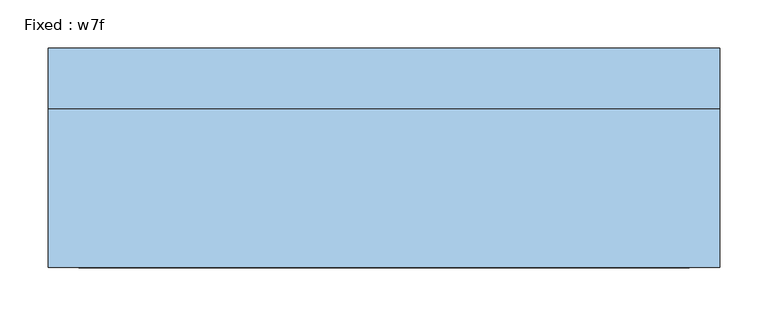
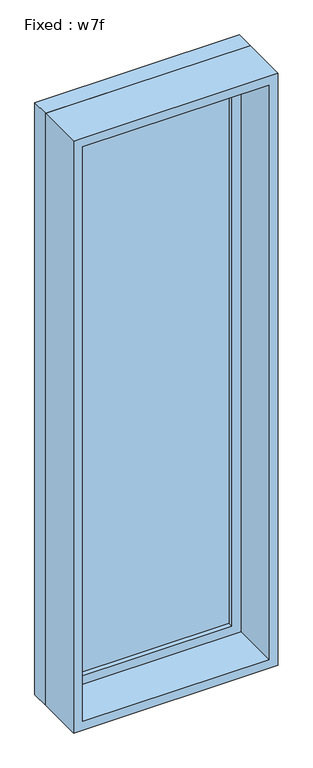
"""IFC4 building model written with IfcOpenShell, lengths in millimetres: window geometry, Fixed : w7f."""

from ifc_helpers import new_model, si_unit, frame, origin, place, context, project, spatial, polyline, outline, extrude, source, transform, mapped, element, save


def fixed_w7f_b2efe030(model_context):
    return source(origin(), model_context, "Body", "SweptSolid", [
        extrude(outline(polyline([(247.65, 66.675), (-323.85, 66.675), (-323.85, 79.375), (247.65, 79.375), (247.65, 66.675)])), frame((0.0, 0.0, 977.9), z_axis=(0.0, 0.0, 1.0), x_axis=(1.0, 0.0, 0.0)), (0.0, 0.0, 1.0), 2006.6),
        extrude(outline(polyline([(3028.95, -368.3), (933.45, -368.3), (933.45, 292.1), (3028.95, 292.1), (3028.95, -368.3)]), holes=[polyline([(2984.5, -323.85), (2984.5, 247.65), (977.9, 247.65), (977.9, -323.85), (2984.5, -323.85)])]), frame((0.0, 50.8, 0.0), z_axis=(0.0, 1.0, 0.0), x_axis=(0.0, 0.0, 1.0)), (0.0, 0.0, 1.0), 44.45),
        extrude(outline(polyline([(3048.0, -387.35), (914.4, -387.35), (914.4, 311.15), (3048.0, 311.15), (3048.0, -387.35)]), holes=[polyline([(3016.25, -355.6), (3016.25, 279.4), (946.15, 279.4), (946.15, -355.6), (3016.25, -355.6)])]), frame((0.0, -114.3, 0.0), z_axis=(0.0, 1.0, 0.0), x_axis=(0.0, 0.0, 1.0)), (0.0, 0.0, 1.0), 165.1),
        extrude(outline(polyline([(3048.0, 311.15), (3048.0, -387.35), (914.4, -387.35), (914.4, 311.15), (3048.0, 311.15)]), holes=[polyline([(3028.95, 292.1), (933.45, 292.1), (933.45, -368.3), (3028.95, -368.3), (3028.95, 292.1)])]), frame((0.0, 50.8, 0.0), z_axis=(0.0, 1.0, 0.0), x_axis=(0.0, 0.0, 1.0)), (0.0, 0.0, 1.0), 63.5),
    ])


if __name__ == "__main__":
    model = new_model("IFC4")
    model_context = context("Model", 3, world=origin())
    ifc_project = project(units=[si_unit("LENGTHUNIT", "METRE", prefix="MILLI")], contexts=[model_context])
    site = spatial("IfcSite", under=ifc_project)
    building = spatial("IfcBuilding", under=site)
    placement = place(None, origin())
    fixed_w7f_shape = fixed_w7f_b2efe030(model_context)
    element("IfcWindow", 1, ObjectType="Fixed : w7f", at=placement, inside=building, context=model_context, shape_type="MappedRepresentation", body=[
        mapped(fixed_w7f_shape, transform((0.0, 0.0, 0.0), x_axis=(1.0, 0.0, 0.0), y_axis=(0.0, 1.0, 0.0), z_axis=(0.0, 0.0, 1.0))),
    ])
    save(model, "model.ifc")
